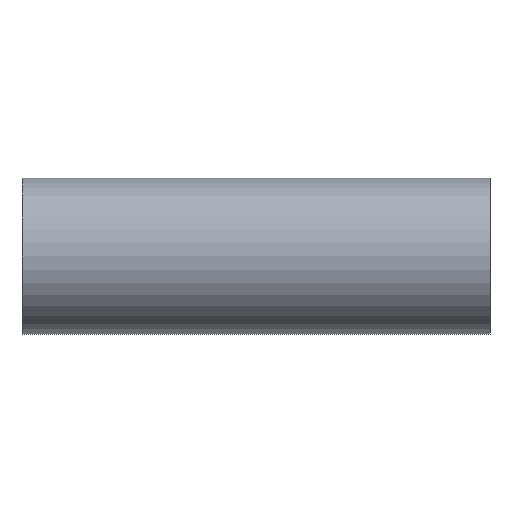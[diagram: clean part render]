
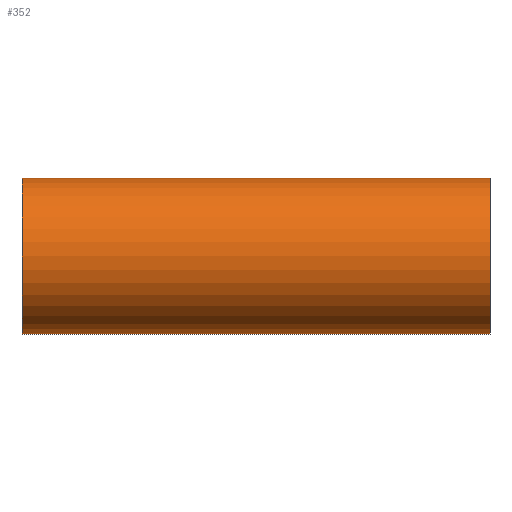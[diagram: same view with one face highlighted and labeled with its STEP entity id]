
A CAD part, front view. The second image highlights one B-rep face of the part: STEP entity #352.
In plain terms, the highlighted cylindrical face has radius 19.05 mm (diameter 38.1 mm), a partial arc.
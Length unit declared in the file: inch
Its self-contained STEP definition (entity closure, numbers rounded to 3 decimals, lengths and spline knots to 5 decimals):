
#1 = DIRECTION ( 'NONE',  ( 0., 0., 1. ) ) ;
#5 = DIRECTION ( 'NONE',  ( -1., 0., 0. ) ) ;
#10 = DIRECTION ( 'NONE',  ( 0., 0., -1. ) ) ;
#13 = CARTESIAN_POINT ( 'NONE',  ( 2.25, 0., 0. ) ) ;
#22 = CARTESIAN_POINT ( 'NONE',  ( 2.25, 0., 0.75 ) ) ;
#25 = DIRECTION ( 'NONE',  ( -1., 0., 0. ) ) ;
#26 = CARTESIAN_POINT ( 'NONE',  ( 2.25, 0., -0.75 ) ) ;
#27 = DIRECTION ( 'NONE',  ( 1., 0., 0. ) ) ;
#44 = DIRECTION ( 'NONE',  ( -1., 0., 0. ) ) ;
#45 = DIRECTION ( 'NONE',  ( 1., 0., 0. ) ) ;
#51 = DIRECTION ( 'NONE',  ( 0., 0., -1. ) ) ;
#68 = CARTESIAN_POINT ( 'NONE',  ( -2.25, 0., 0.75 ) ) ;
#76 = CARTESIAN_POINT ( 'NONE',  ( 2.25, 0., -0.75 ) ) ;
#77 = CARTESIAN_POINT ( 'NONE',  ( -2.25, 0., 0. ) ) ;
#92 = CARTESIAN_POINT ( 'NONE',  ( -2.25, 0., -0.75 ) ) ;
#96 = DIRECTION ( 'NONE',  ( -1., 0., 0. ) ) ;
#107 = VERTEX_POINT ( 'NONE', #92 ) ;
#124 = ORIENTED_EDGE ( 'NONE', *, *, #184, .T. ) ;
#129 = VECTOR ( 'NONE', #25, 39.37008 ) ;
#132 = LINE ( 'NONE', #76, #129 ) ;
#135 = VECTOR ( 'NONE', #426, 39.37008 ) ;
#139 = CARTESIAN_POINT ( 'NONE',  ( 0., 0., 0.75 ) ) ;
#141 = ORIENTED_EDGE ( 'NONE', *, *, #360, .T. ) ;
#145 = CARTESIAN_POINT ( 'NONE',  ( 2.25, 0., -0.75 ) ) ;
#149 = LINE ( 'NONE', #26, #135 ) ;
#151 = ORIENTED_EDGE ( 'NONE', *, *, #365, .F. ) ;
#159 = VERTEX_POINT ( 'NONE', #392 ) ;
#166 = CARTESIAN_POINT ( 'NONE',  ( 2.25, 0., 0. ) ) ;
#184 = EDGE_CURVE ( 'NONE', #252, #107, #262, .T. ) ;
#190 = VECTOR ( 'NONE', #96, 39.37008 ) ;
#191 = CYLINDRICAL_SURFACE ( 'NONE', #341, 0.75 ) ;
#192 = LINE ( 'NONE', #337, #190 ) ;
#193 = CIRCLE ( 'NONE', #342, 0.75 ) ;
#195 = ORIENTED_EDGE ( 'NONE', *, *, #437, .F. ) ;
#200 = VERTEX_POINT ( 'NONE', #145 ) ;
#204 = FACE_OUTER_BOUND ( 'NONE', #294, .T. ) ;
#212 = LINE ( 'NONE', #22, #239 ) ;
#239 = VECTOR ( 'NONE', #44, 39.37008 ) ;
#252 = VERTEX_POINT ( 'NONE', #68 ) ;
#262 = CIRCLE ( 'NONE', #404, 0.75 ) ;
#263 = EDGE_CURVE ( 'NONE', #354, #427, #212, .T. ) ;
#294 = EDGE_LOOP ( 'NONE', ( #195, #151, #343, #141, #124, #445 ) ) ;
#337 = CARTESIAN_POINT ( 'NONE',  ( 2.25, 0., 0.75 ) ) ;
#341 = AXIS2_PLACEMENT_3D ( 'NONE', #166, #5, #1 ) ;
#342 = AXIS2_PLACEMENT_3D ( 'NONE', #13, #27, #51 ) ;
#343 = ORIENTED_EDGE ( 'NONE', *, *, #263, .T. ) ;
#352 = ADVANCED_FACE ( 'NONE', ( #204 ), #191, .T. ) ;
#354 = VERTEX_POINT ( 'NONE', #413 ) ;
#360 = EDGE_CURVE ( 'NONE', #427, #252, #192, .T. ) ;
#365 = EDGE_CURVE ( 'NONE', #354, #200, #193, .T. ) ;
#392 = CARTESIAN_POINT ( 'NONE',  ( 0., 0., -0.75 ) ) ;
#404 = AXIS2_PLACEMENT_3D ( 'NONE', #77, #45, #10 ) ;
#413 = CARTESIAN_POINT ( 'NONE',  ( 2.25, 0., 0.75 ) ) ;
#426 = DIRECTION ( 'NONE',  ( -1., 0., 0. ) ) ;
#427 = VERTEX_POINT ( 'NONE', #139 ) ;
#431 = EDGE_CURVE ( 'NONE', #159, #107, #149, .T. ) ;
#437 = EDGE_CURVE ( 'NONE', #200, #159, #132, .T. ) ;
#445 = ORIENTED_EDGE ( 'NONE', *, *, #431, .F. ) ;
